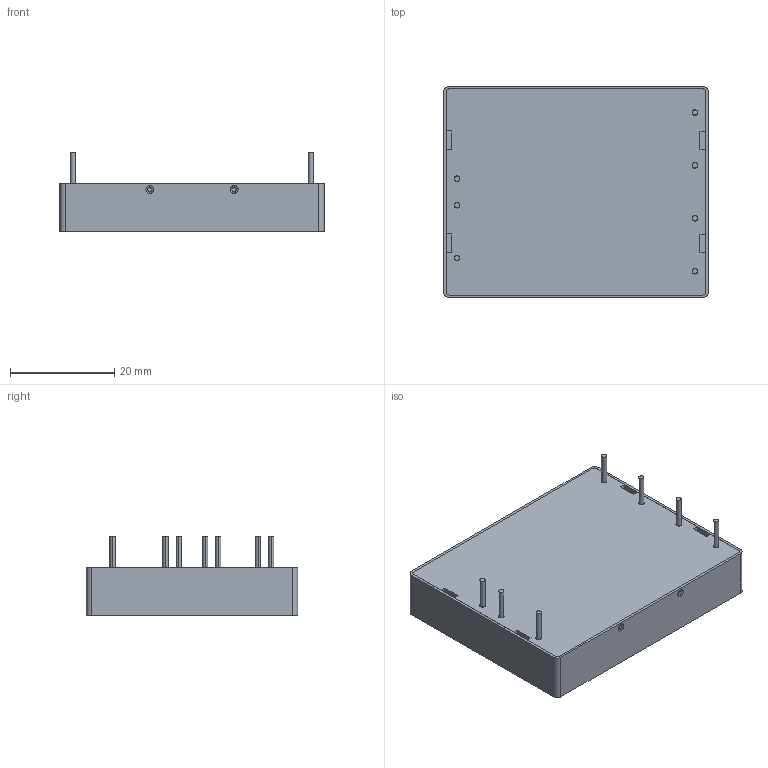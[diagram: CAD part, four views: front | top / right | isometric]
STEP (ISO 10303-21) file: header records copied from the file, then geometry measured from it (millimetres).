
FILE_DESCRIPTION (( 'STEP AP214' ), '1' );
FILE_NAME ('ten25.STEP', '2013-05-03T07:58:37', ( '' ), ( '' ), 'SwSTEP 2.0', 'SolidWorks 2013', '' );
FILE_SCHEMA (( 'AUTOMOTIVE_DESIGN' ));
Length unit declared in the file: millimetre
Products named in the file (4): TEN-25 PIN; TEN-25 PCB; TEN-25 Series; ten25
Assembly tree (9 placements, depth 2):
  ten25
    TEN-25 Series
    TEN-25 PCB
    TEN-25 PIN  x7
Bounding box: 50.8 x 40.6 x 15.3 mm (x, y, z)
Volume: 3804.4 mm3; surface area: 11629.4 mm2
Topology: 9 solids, 9 shells, 111 faces, 252 edges, 172 vertices
Faces by surface type: plane 47, cylinder 40, bspline 24
Entity records: 3894 total; most frequent: CARTESIAN_POINT 1645, ORIENTED_EDGE 432, DIRECTION 422, EDGE_CURVE 216, AXIS2_PLACEMENT_3D 155, VERTEX_POINT 148, EDGE_LOOP 114, LINE 112
